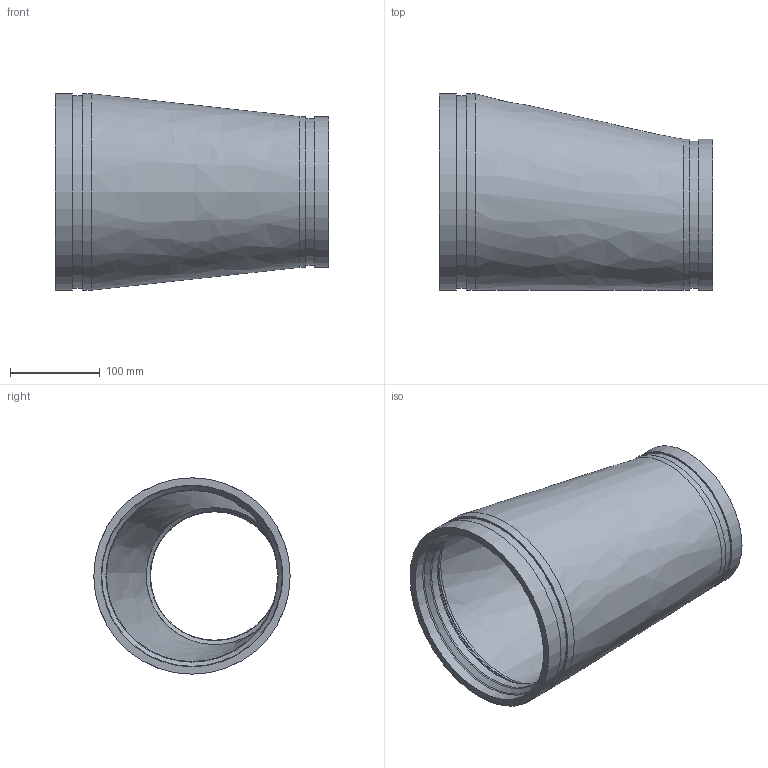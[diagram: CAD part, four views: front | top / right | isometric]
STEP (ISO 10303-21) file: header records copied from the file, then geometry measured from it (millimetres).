
FILE_DESCRIPTION(/* description */ ('VIC REDUCER ECCENTRIC No 451H-SS','CAx-IF Rec.Pracs.---Representation and Presentation of Product Manufacturing Information (PMI)---4.0---2014-10-13'),/* implementation_level */ '2;1');
FILE_NAME(/* name */ 'C:\Users\kkamble\AppData\Roaming\Autodesk\ApplicationPlugins\Back Up\Victaulic_SS-OGS_Reducer Eccentric_Sched 40S_No 451H SS (OGS)\Victaulic_SS-OGS_Reducer Eccentric_Sched 40S_No 451H SS (OGS)_08.0x06.0 (200x150).stp',/* time_stamp */ '2020-08-25T18:06:06+06:00',/* author */ ('CORINNE GRAY'),/* organization */ ('Victaulic'),/* preprocessor_version */ 'ST-DEVELOPER v17.2',/* originating_system */ 'Autodesk Inventor 2019',/* authorisation */ '');
FILE_SCHEMA (('AP242_MANAGED_MODEL_BASED_3D_ENGINEERING_MIM_LF { 1 0 10303 442 1 1 4 }'));
Length unit declared in the file: inch
Products named in the file (1): 451H SS-08.0x06.0
Bounding box: 304.8 x 219.07 x 219.07 mm (x, y, z)
Volume: 1464445.4 mm3; surface area: 377034.5 mm2
Topology: 1 solids, 1 shells, 32 faces, 107 edges, 81 vertices
Faces by surface type: cylinder 11, torus 9, plane 6, cone 4, bspline 2
Full cylindrical faces by diameter (mm): 143.383 x1, 153.67 x1, 163.957 x1, 168.275 x2, 190.983 x1, 202.692 x2, 214.401 x1, 219.075 x2
Entity records: 1465 total; most frequent: DIRECTION 283, CARTESIAN_POINT 274, ORIENTED_EDGE 214, AXIS2_PLACEMENT_3D 134, EDGE_CURVE 107, CIRCLE 90, VERTEX_POINT 81, EDGE_LOOP 38
